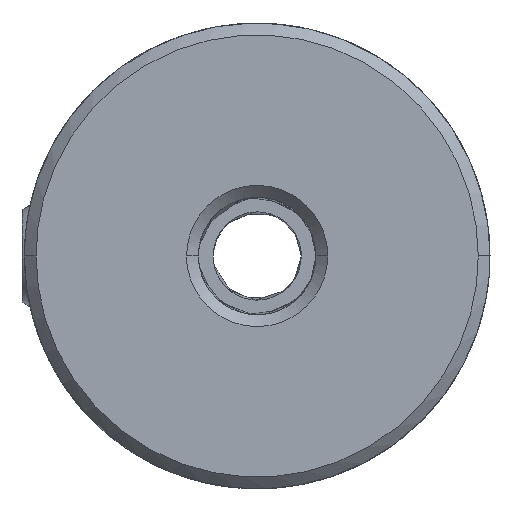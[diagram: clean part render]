
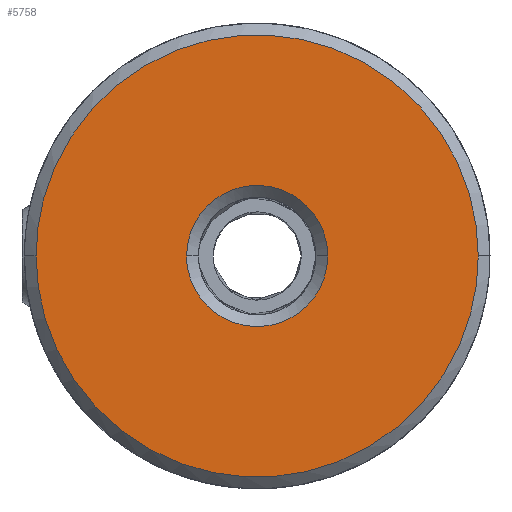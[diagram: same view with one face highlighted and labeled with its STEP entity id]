
A CAD part, front view. The second image highlights one B-rep face of the part: STEP entity #5758.
In plain terms, the highlighted free-form (B-spline) face has degree [3, 3] with [4, 4] control points.
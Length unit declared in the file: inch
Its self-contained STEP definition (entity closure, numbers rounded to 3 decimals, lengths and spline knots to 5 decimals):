
#2031=CARTESIAN_POINT('',(-0.29603,-0.5,0.));
#2032=CARTESIAN_POINT('',(-0.29603,-0.5,-0.01745));
#2033=CARTESIAN_POINT('',(-0.29294,-0.5,-0.05364));
#2034=CARTESIAN_POINT('',(-0.27723,-0.5,-0.10932));
#2035=CARTESIAN_POINT('',(-0.24965,-0.5,-0.16297));
#2036=CARTESIAN_POINT('',(-0.21083,-0.5,-0.21086));
#2037=CARTESIAN_POINT('',(-0.17092,-0.5,-0.2432));
#2038=CARTESIAN_POINT('',(-0.13611,-0.5,-0.26347));
#2039=CARTESIAN_POINT('',(-0.10904,-0.5,-0.27577));
#2040=CARTESIAN_POINT('',(-0.08145,-0.5,-0.28512));
#2041=CARTESIAN_POINT('',(-0.05379,-0.5,-0.29158));
#2042=CARTESIAN_POINT('',(-0.03102,-0.5,-0.29467));
#2043=CARTESIAN_POINT('',(-0.01313,-0.5,-0.29587));
#2044=CARTESIAN_POINT('',(0.00003,-0.5,-0.29616));
#2045=CARTESIAN_POINT('',(0.01318,-0.5,-0.29587));
#2046=CARTESIAN_POINT('',(0.03108,-0.5,-0.29467));
#2047=CARTESIAN_POINT('',(0.05384,-0.5,-0.29158));
#2048=CARTESIAN_POINT('',(0.0815,-0.5,-0.28512));
#2049=CARTESIAN_POINT('',(0.10909,-0.5,-0.27577));
#2050=CARTESIAN_POINT('',(0.13617,-0.5,-0.26347));
#2051=CARTESIAN_POINT('',(0.17098,-0.5,-0.2432));
#2052=CARTESIAN_POINT('',(0.21089,-0.5,-0.21086));
#2053=CARTESIAN_POINT('',(0.2497,-0.5,-0.16297));
#2054=CARTESIAN_POINT('',(0.27728,-0.5,-0.10932));
#2055=CARTESIAN_POINT('',(0.29299,-0.5,-0.05364));
#2056=CARTESIAN_POINT('',(0.29609,-0.5,-0.01745));
#2057=CARTESIAN_POINT('',(0.29609,-0.5,0.));
#2059=CARTESIAN_POINT('',(0.29609,-0.5,0.));
#2060=CARTESIAN_POINT('',(0.29609,-0.5,0.01745));
#2061=CARTESIAN_POINT('',(0.29299,-0.5,0.05364));
#2062=CARTESIAN_POINT('',(0.27728,-0.5,0.10932));
#2063=CARTESIAN_POINT('',(0.2497,-0.5,0.16297));
#2064=CARTESIAN_POINT('',(0.21089,-0.5,0.21086));
#2065=CARTESIAN_POINT('',(0.17098,-0.5,0.2432));
#2066=CARTESIAN_POINT('',(0.13617,-0.5,0.26347));
#2067=CARTESIAN_POINT('',(0.10909,-0.5,0.27577));
#2068=CARTESIAN_POINT('',(0.0815,-0.5,0.28512));
#2069=CARTESIAN_POINT('',(0.05384,-0.5,0.29158));
#2070=CARTESIAN_POINT('',(0.03108,-0.5,0.29467));
#2071=CARTESIAN_POINT('',(0.01318,-0.5,0.29587));
#2072=CARTESIAN_POINT('',(0.00003,-0.5,0.29616));
#2073=CARTESIAN_POINT('',(-0.01313,-0.5,0.29587));
#2074=CARTESIAN_POINT('',(-0.03102,-0.5,0.29467));
#2075=CARTESIAN_POINT('',(-0.05379,-0.5,0.29158));
#2076=CARTESIAN_POINT('',(-0.08145,-0.5,0.28512));
#2077=CARTESIAN_POINT('',(-0.10904,-0.5,0.27577));
#2078=CARTESIAN_POINT('',(-0.13611,-0.5,0.26347));
#2079=CARTESIAN_POINT('',(-0.17092,-0.5,0.2432));
#2080=CARTESIAN_POINT('',(-0.21083,-0.5,0.21086));
#2081=CARTESIAN_POINT('',(-0.24965,-0.5,0.16297));
#2082=CARTESIAN_POINT('',(-0.27723,-0.5,0.10932));
#2083=CARTESIAN_POINT('',(-0.29294,-0.5,0.05364));
#2084=CARTESIAN_POINT('',(-0.29603,-0.5,0.01745));
#2085=CARTESIAN_POINT('',(-0.29603,-0.5,0.));
#2087=CARTESIAN_POINT('',(0.09452,-0.5,0.));
#2088=CARTESIAN_POINT('',(0.09452,-0.5,-0.00557));
#2089=CARTESIAN_POINT('',(0.09353,-0.5,-0.01712));
#2090=CARTESIAN_POINT('',(0.08851,-0.5,-0.03489));
#2091=CARTESIAN_POINT('',(0.07971,-0.5,-0.05201));
#2092=CARTESIAN_POINT('',(0.06732,-0.5,-0.0673));
#2093=CARTESIAN_POINT('',(0.05204,-0.5,-0.07968));
#2094=CARTESIAN_POINT('',(0.03777,-0.5,-0.08702));
#2095=CARTESIAN_POINT('',(0.02603,-0.5,-0.09099));
#2096=CARTESIAN_POINT('',(0.0172,-0.5,-0.09306));
#2097=CARTESIAN_POINT('',(0.00994,-0.5,-0.09404));
#2098=CARTESIAN_POINT('',(0.00423,-0.5,-0.09443));
#2099=CARTESIAN_POINT('',(0.00003,-0.5,-0.09452));
#2100=CARTESIAN_POINT('',(-0.00417,-0.5,-0.09443));
#2101=CARTESIAN_POINT('',(-0.00988,-0.5,-0.09404));
#2102=CARTESIAN_POINT('',(-0.01715,-0.5,-0.09306));
#2103=CARTESIAN_POINT('',(-0.02597,-0.5,-0.09099));
#2104=CARTESIAN_POINT('',(-0.03771,-0.5,-0.08702));
#2105=CARTESIAN_POINT('',(-0.05198,-0.5,-0.07968));
#2106=CARTESIAN_POINT('',(-0.06727,-0.5,-0.0673));
#2107=CARTESIAN_POINT('',(-0.07966,-0.5,-0.05201));
#2108=CARTESIAN_POINT('',(-0.08846,-0.5,-0.03489));
#2109=CARTESIAN_POINT('',(-0.09347,-0.5,-0.01712));
#2110=CARTESIAN_POINT('',(-0.09446,-0.5,-0.00557));
#2111=CARTESIAN_POINT('',(-0.09446,-0.5,0.));
#2113=CARTESIAN_POINT('',(-0.09446,-0.5,0.));
#2114=CARTESIAN_POINT('',(-0.09446,-0.5,0.00557));
#2115=CARTESIAN_POINT('',(-0.09347,-0.5,0.01712));
#2116=CARTESIAN_POINT('',(-0.08846,-0.5,0.03489));
#2117=CARTESIAN_POINT('',(-0.07966,-0.5,0.05201));
#2118=CARTESIAN_POINT('',(-0.06727,-0.5,0.0673));
#2119=CARTESIAN_POINT('',(-0.05198,-0.5,0.07968));
#2120=CARTESIAN_POINT('',(-0.03771,-0.5,0.08702));
#2121=CARTESIAN_POINT('',(-0.02597,-0.5,0.09099));
#2122=CARTESIAN_POINT('',(-0.01715,-0.5,0.09306));
#2123=CARTESIAN_POINT('',(-0.00988,-0.5,0.09404));
#2124=CARTESIAN_POINT('',(-0.00417,-0.5,0.09443));
#2125=CARTESIAN_POINT('',(0.00003,-0.5,0.09452));
#2126=CARTESIAN_POINT('',(0.00423,-0.5,0.09443));
#2127=CARTESIAN_POINT('',(0.00994,-0.5,0.09404));
#2128=CARTESIAN_POINT('',(0.0172,-0.5,0.09306));
#2129=CARTESIAN_POINT('',(0.02603,-0.5,0.09099));
#2130=CARTESIAN_POINT('',(0.03777,-0.5,0.08702));
#2131=CARTESIAN_POINT('',(0.05204,-0.5,0.07968));
#2132=CARTESIAN_POINT('',(0.06732,-0.5,0.0673));
#2133=CARTESIAN_POINT('',(0.07971,-0.5,0.05201));
#2134=CARTESIAN_POINT('',(0.08851,-0.5,0.03489));
#2135=CARTESIAN_POINT('',(0.09353,-0.5,0.01712));
#2136=CARTESIAN_POINT('',(0.09452,-0.5,0.00557));
#2137=CARTESIAN_POINT('',(0.09452,-0.5,0.));
#2139=CARTESIAN_POINT('',(-0.29603,-0.5,0.));
#2144=CARTESIAN_POINT('',(0.29609,-0.5,0.));
#2152=CARTESIAN_POINT('',(-0.09446,-0.5,0.));
#2157=CARTESIAN_POINT('',(0.09452,-0.5,0.));
#2945=VERTEX_POINT('',#2144);
#2947=VERTEX_POINT('',#2139);
#2982=VERTEX_POINT('',#2157);
#2984=VERTEX_POINT('',#2152);
#5730=CARTESIAN_POINT('',(-0.30788,-0.5,0.30815));
#5731=CARTESIAN_POINT('',(-0.10261,-0.5,0.30815));
#5732=CARTESIAN_POINT('',(0.10266,-0.5,0.30815));
#5733=CARTESIAN_POINT('',(0.30793,-0.5,0.30815));
#5734=CARTESIAN_POINT('',(-0.30788,-0.5,0.10272));
#5735=CARTESIAN_POINT('',(-0.10261,-0.5,0.10272));
#5736=CARTESIAN_POINT('',(0.10266,-0.5,0.10272));
#5737=CARTESIAN_POINT('',(0.30793,-0.5,0.10272));
#5738=CARTESIAN_POINT('',(-0.30788,-0.5,-0.10272));
#5739=CARTESIAN_POINT('',(-0.10261,-0.5,-0.10272));
#5740=CARTESIAN_POINT('',(0.10266,-0.5,-0.10272));
#5741=CARTESIAN_POINT('',(0.30793,-0.5,-0.10272));
#5742=CARTESIAN_POINT('',(-0.30788,-0.5,-0.30815));
#5743=CARTESIAN_POINT('',(-0.10261,-0.5,-0.30815));
#5744=CARTESIAN_POINT('',(0.10266,-0.5,-0.30815));
#5745=CARTESIAN_POINT('',(0.30793,-0.5,-0.30815));
#5746=B_SPLINE_SURFACE_WITH_KNOTS('',3,3,((#5730,#5731,#5732,#5733),(#5734,
#5735,#5736,#5737),(#5738,#5739,#5740,#5741),(#5742,#5743,#5744,#5745)),
.UNSPECIFIED.,.F.,.F.,.F.,(4,4),(4,4),(-0.78271,0.78271),(
-0.78208,0.78208),.UNSPECIFIED.);
#5748=ORIENTED_EDGE('',*,*,#5747,.F.);
#5750=ORIENTED_EDGE('',*,*,#5749,.F.);
#5751=EDGE_LOOP('',(#5748,#5750));
#5752=FACE_OUTER_BOUND('',#5751,.F.);
#5754=ORIENTED_EDGE('',*,*,#5753,.F.);
#5755=ORIENTED_EDGE('',*,*,#5720,.F.);
#5756=EDGE_LOOP('',(#5754,#5755));
#5757=FACE_BOUND('',#5756,.F.);
#2058=B_SPLINE_CURVE_WITH_KNOTS('',3,(#2031,#2032,#2033,#2034,#2035,#2036,#2037,
#2038,#2039,#2040,#2041,#2042,#2043,#2044,#2045,#2046,#2047,#2048,#2049,#2050,
#2051,#2052,#2053,#2054,#2055,#2056,#2057),.UNSPECIFIED.,.F.,.F.,(4,1,1,1,1,1,1,
1,1,1,1,1,1,1,1,1,1,1,1,1,1,1,1,1,4),(0.,0.0625,0.125,0.1875,0.25,
0.3125,0.34375,0.375,0.40625,0.4375,0.46875,0.48438,0.5,
0.51563,0.53125,0.5625,0.59375,0.625,0.65625,0.6875,0.75,
0.8125,0.875,0.9375,1.),.UNSPECIFIED.);
#2086=B_SPLINE_CURVE_WITH_KNOTS('',3,(#2059,#2060,#2061,#2062,#2063,#2064,#2065,
#2066,#2067,#2068,#2069,#2070,#2071,#2072,#2073,#2074,#2075,#2076,#2077,#2078,
#2079,#2080,#2081,#2082,#2083,#2084,#2085),.UNSPECIFIED.,.F.,.F.,(4,1,1,1,1,1,1,
1,1,1,1,1,1,1,1,1,1,1,1,1,1,1,1,1,4),(0.,0.0625,0.125,0.1875,0.25,
0.3125,0.34375,0.375,0.40625,0.4375,0.46875,0.48438,0.5,
0.51563,0.53125,0.5625,0.59375,0.625,0.65625,0.6875,0.75,
0.8125,0.875,0.9375,1.),.UNSPECIFIED.);
#2112=B_SPLINE_CURVE_WITH_KNOTS('',3,(#2087,#2088,#2089,#2090,#2091,#2092,#2093,
#2094,#2095,#2096,#2097,#2098,#2099,#2100,#2101,#2102,#2103,#2104,#2105,#2106,
#2107,#2108,#2109,#2110,#2111),.UNSPECIFIED.,.F.,.F.,(4,1,1,1,1,1,1,1,1,1,1,1,1,
1,1,1,1,1,1,1,1,1,4),(0.,0.0625,0.125,0.1875,0.25,0.3125,0.375,
0.40625,0.4375,0.46875,0.48438,0.5,0.51563,0.53125,0.5625,
0.59375,0.625,0.6875,0.75,0.8125,0.875,0.9375,1.),
.UNSPECIFIED.);
#2138=B_SPLINE_CURVE_WITH_KNOTS('',3,(#2113,#2114,#2115,#2116,#2117,#2118,#2119,
#2120,#2121,#2122,#2123,#2124,#2125,#2126,#2127,#2128,#2129,#2130,#2131,#2132,
#2133,#2134,#2135,#2136,#2137),.UNSPECIFIED.,.F.,.F.,(4,1,1,1,1,1,1,1,1,1,1,1,1,
1,1,1,1,1,1,1,1,1,4),(0.,0.0625,0.125,0.1875,0.25,0.3125,0.375,
0.40625,0.4375,0.46875,0.48438,0.5,0.51563,0.53125,0.5625,
0.59375,0.625,0.6875,0.75,0.8125,0.875,0.9375,1.),
.UNSPECIFIED.);
#5720=EDGE_CURVE('',#2984,#2982,#2138,.T.);
#5747=EDGE_CURVE('',#2947,#2945,#2058,.T.);
#5749=EDGE_CURVE('',#2945,#2947,#2086,.T.);
#5753=EDGE_CURVE('',#2982,#2984,#2112,.T.);
#5758=ADVANCED_FACE('',(#5752,#5757),#5746,.T.);
